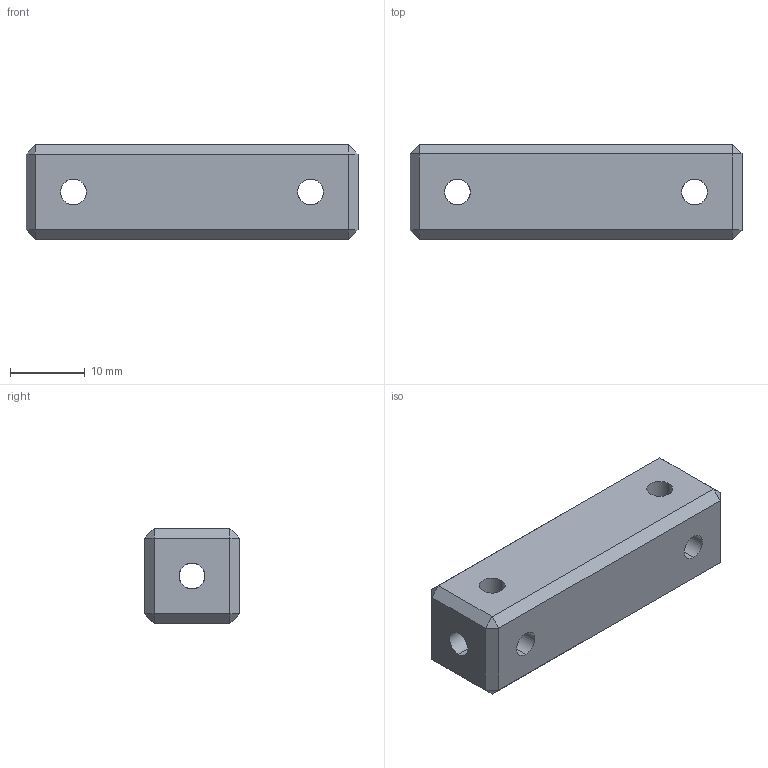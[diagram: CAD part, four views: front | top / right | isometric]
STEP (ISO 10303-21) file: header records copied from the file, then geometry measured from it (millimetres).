
FILE_DESCRIPTION (( 'STEP AP203' ), '1' );
FILE_NAME ('FDPCK-.5PULTRUDED-BLOCK1x2.step', '2019-09-11T18:22:57', ( 'ydmin' ), ( '' ), 'SwSTEP 2.0', 'SolidWorks 2017', '' );
FILE_SCHEMA (( 'CONFIG_CONTROL_DESIGN' ));
Length unit declared in the file: inch
Products named in the file (1): FDPCK-.5PULTRUDED-BLOCK1x2
Bounding box: 44.45 x 12.7 x 12.7 mm (x, y, z)
Volume: 6178.8 mm3; surface area: 3105.4 mm2
Topology: 1 solids, 1 shells, 48 faces, 130 edges, 76 vertices
Faces by surface type: plane 26, cylinder 22
Entity records: 1573 total; most frequent: CARTESIAN_POINT 375, ORIENTED_EDGE 260, DIRECTION 208, EDGE_CURVE 130, VERTEX_POINT 76, LINE 70, VECTOR 70, AXIS2_PLACEMENT_3D 69
